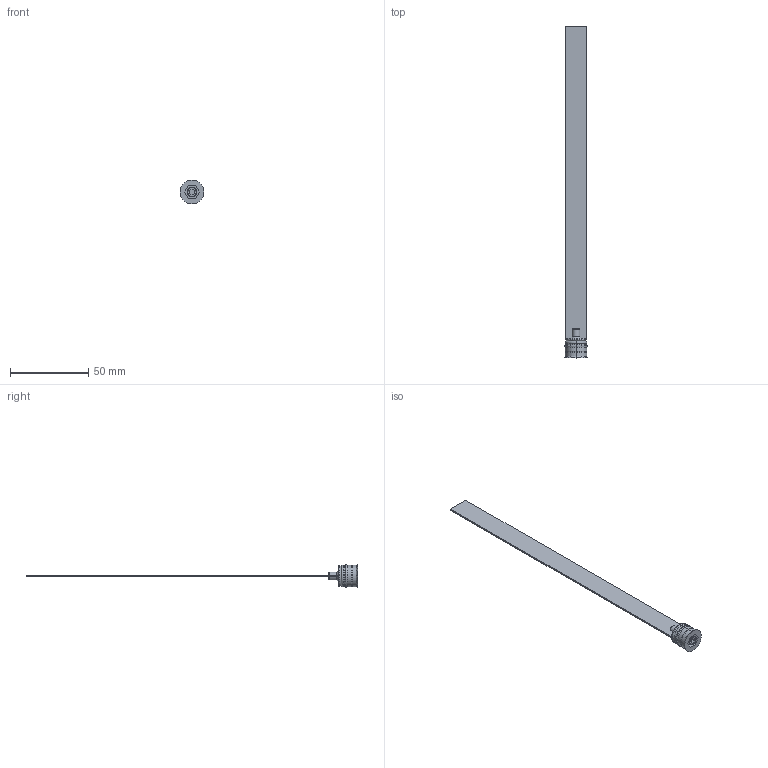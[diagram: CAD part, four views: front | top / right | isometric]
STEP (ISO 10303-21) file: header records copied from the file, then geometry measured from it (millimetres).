
FILE_DESCRIPTION (( 'STEP AP203' ), '1' );
FILE_NAME ('RL-14Fx200.STEP', '2015-12-02T10:32:19', ( 'Balzi' ), ( '' ), 'SwSTEP 2.0', 'SolidWorks 2015', '' );
FILE_SCHEMA (( 'CONFIG_CONTROL_DESIGN' ));
Length unit declared in the file: millimetre
Products named in the file (1): RL-14Fx200
Bounding box: 15.3 x 212.5 x 15.3 mm (x, y, z)
Volume: 4614.8 mm3; surface area: 7195.8 mm2
Topology: 1 solids, 1 shells, 72 faces, 171 edges, 105 vertices
Faces by surface type: plane 30, cylinder 17, cone 17, torus 8
Entity records: 2165 total; most frequent: CARTESIAN_POINT 399, DIRECTION 370, ORIENTED_EDGE 342, EDGE_CURVE 171, AXIS2_PLACEMENT_3D 140, VERTEX_POINT 105, LINE 90, VECTOR 90
